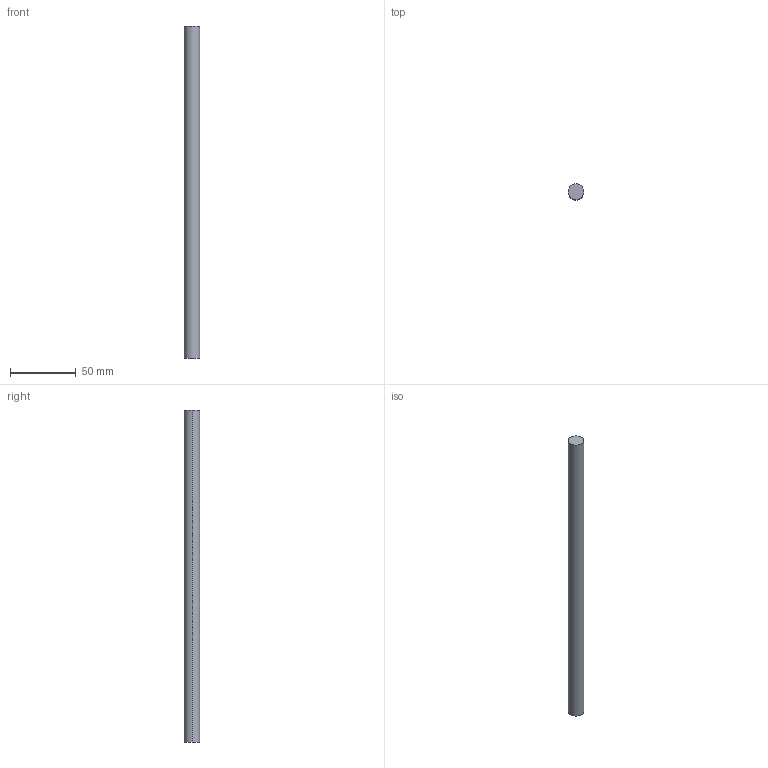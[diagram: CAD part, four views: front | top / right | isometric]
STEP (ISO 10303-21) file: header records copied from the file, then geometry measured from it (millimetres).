
FILE_DESCRIPTION (( 'STEP AP214' ), '1' );
FILE_NAME ('Magic Reling längs - 290.step', '2010-09-07T14:56:15', ( 'grass' ), ( '' ), 'SwSTEP 2.0', 'SolidWorks 2010', '' );
FILE_SCHEMA (( 'AUTOMOTIVE_DESIGN' ));
Length unit declared in the file: millimetre
Products named in the file (1): Magic Reling längs - 290
Bounding box: 12 x 12 x 252 mm (x, y, z)
Volume: 28500.5 mm3; surface area: 9726.4 mm2
Topology: 1 solids, 1 shells, 4 faces, 6 edges, 4 vertices
Faces by surface type: cylinder 2, plane 2
Entity records: 128 total; most frequent: DIRECTION 20, CARTESIAN_POINT 15, ORIENTED_EDGE 12, AXIS2_PLACEMENT_3D 9, EDGE_CURVE 6, FACE_OUTER_BOUND 4, CIRCLE 4, EDGE_LOOP 4
